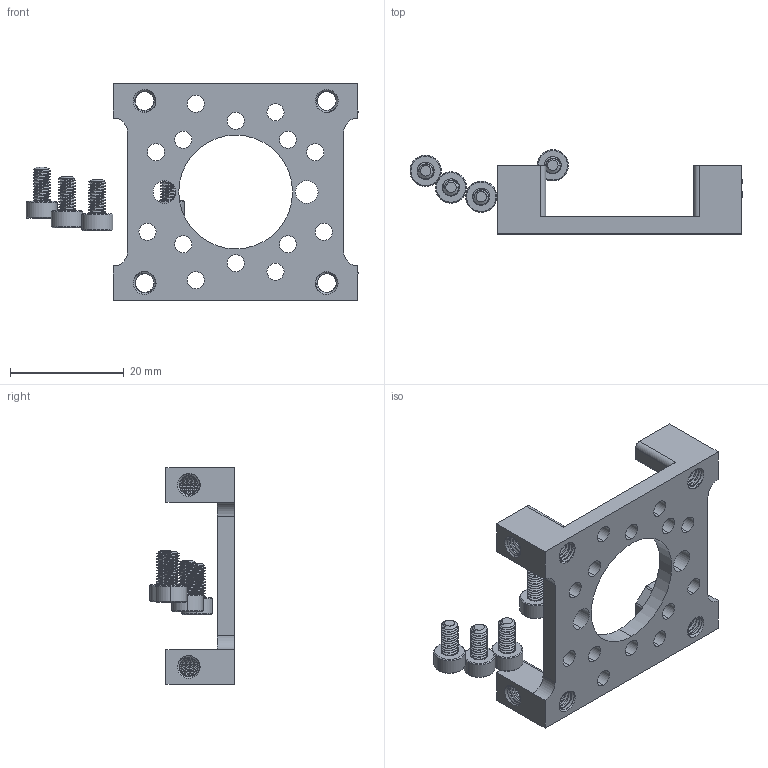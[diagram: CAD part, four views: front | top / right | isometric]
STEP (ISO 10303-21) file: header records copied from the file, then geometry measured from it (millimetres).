
FILE_DESCRIPTION (( 'STEP AP203' ), '1' );
FILE_NAME ('1702-0032-0001 Assembly.STEP', '2018-01-24T19:19:41', ( '' ), ( '' ), 'SwSTEP 2.0', 'SolidWorks 2016', '' );
FILE_SCHEMA (( 'CONFIG_CONTROL_DESIGN' ));
Length unit declared in the file: millimetre
Products named in the file (3): 1702-0032-0001; 1702-0032-0001 screw (M3 x 6mm)_91290A111; 1702-0032-0001 Assembly
Assembly tree (5 placements, depth 2):
  1702-0032-0001 Assembly
    1702-0032-0001
    1702-0032-0001 screw (M3 x 6mm)_91290A111  x4
Bounding box: 58.35 x 14.86 x 38 mm (x, y, z)
Volume: 4644.6 mm3; surface area: 5998.9 mm2
Topology: 5 solids, 5 shells, 1159 faces, 3317 edges, 2172 vertices
Faces by surface type: cylinder 774, bspline 198, cone 107, plane 80
Entity records: 241515 total; most frequent: CARTESIAN_POINT 222219, ORIENTED_EDGE 5398, EDGE_CURVE 2699, DIRECTION 2434, VERTEX_POINT 1779, EDGE_LOOP 970, AXIS2_PLACEMENT_3D 934, FACE_OUTER_BOUND 922
